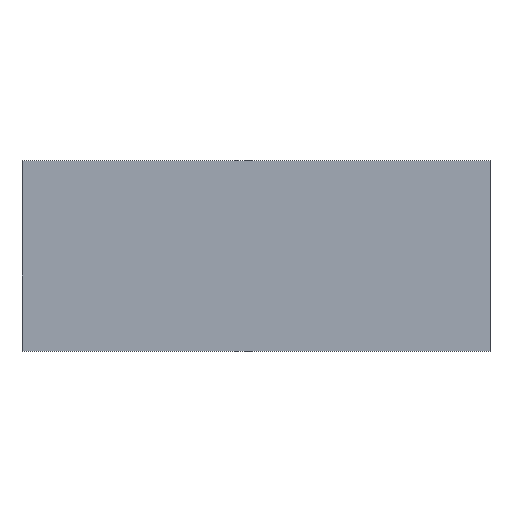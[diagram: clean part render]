
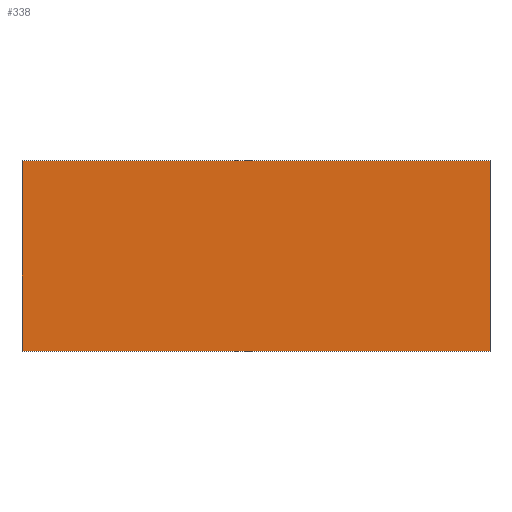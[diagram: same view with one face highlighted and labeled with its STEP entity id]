
A CAD part, top view. The second image highlights one B-rep face of the part: STEP entity #338.
In plain terms, the highlighted planar face has unit normal (0, 0, 1).
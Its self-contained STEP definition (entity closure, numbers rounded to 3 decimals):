
#24 = VERTEX_POINT('',#25);
#25 = CARTESIAN_POINT('',(563.,-12.7,33.));
#32 = PLANE('',#33);
#33 = AXIS2_PLACEMENT_3D('',#34,#35,#36);
#34 = CARTESIAN_POINT('',(563.,-12.7,30.));
#35 = DIRECTION('',(1.,0.,0.));
#36 = DIRECTION('',(0.,0.,1.));
#44 = PLANE('',#45);
#45 = AXIS2_PLACEMENT_3D('',#46,#47,#48);
#46 = CARTESIAN_POINT('',(563.,-12.7,30.));
#47 = DIRECTION('',(0.,1.,0.));
#48 = DIRECTION('',(0.,0.,1.));
#85 = VERTEX_POINT('',#86);
#86 = CARTESIAN_POINT('',(563.,12.7,33.));
#100 = PLANE('',#101);
#101 = AXIS2_PLACEMENT_3D('',#102,#103,#104);
#102 = CARTESIAN_POINT('',(563.,12.7,30.));
#103 = DIRECTION('',(0.,1.,0.));
#104 = DIRECTION('',(0.,0.,1.));
#112 = EDGE_CURVE('',#24,#85,#113,.T.);
#113 = SURFACE_CURVE('',#114,(#118,#125),.PCURVE_S1.);
#114 = LINE('',#115,#116);
#115 = CARTESIAN_POINT('',(563.,-12.7,33.));
#116 = VECTOR('',#117,1.);
#117 = DIRECTION('',(0.,1.,0.));
#118 = PCURVE('',#32,#119);
#119 = DEFINITIONAL_REPRESENTATION('',(#120),#124);
#120 = LINE('',#121,#122);
#121 = CARTESIAN_POINT('',(3.,0.));
#122 = VECTOR('',#123,1.);
#123 = DIRECTION('',(0.,-1.));
#124 = ( GEOMETRIC_REPRESENTATION_CONTEXT(2) 
PARAMETRIC_REPRESENTATION_CONTEXT() REPRESENTATION_CONTEXT('2D SPACE',''
  ) );
#125 = PCURVE('',#126,#131);
#126 = PLANE('',#127);
#127 = AXIS2_PLACEMENT_3D('',#128,#129,#130);
#128 = CARTESIAN_POINT('',(563.,-12.7,33.));
#129 = DIRECTION('',(0.,0.,1.));
#130 = DIRECTION('',(1.,0.,0.));
#131 = DEFINITIONAL_REPRESENTATION('',(#132),#136);
#132 = LINE('',#133,#134);
#133 = CARTESIAN_POINT('',(0.,0.));
#134 = VECTOR('',#135,1.);
#135 = DIRECTION('',(0.,1.));
#136 = ( GEOMETRIC_REPRESENTATION_CONTEXT(2) 
PARAMETRIC_REPRESENTATION_CONTEXT() REPRESENTATION_CONTEXT('2D SPACE',''
  ) );
#144 = VERTEX_POINT('',#145);
#145 = CARTESIAN_POINT('',(625.5,-12.7,33.));
#152 = PLANE('',#153);
#153 = AXIS2_PLACEMENT_3D('',#154,#155,#156);
#154 = CARTESIAN_POINT('',(625.5,-12.7,30.));
#155 = DIRECTION('',(1.,0.,0.));
#156 = DIRECTION('',(0.,0.,1.));
#195 = VERTEX_POINT('',#196);
#196 = CARTESIAN_POINT('',(625.5,12.7,33.));
#217 = EDGE_CURVE('',#144,#195,#218,.T.);
#218 = SURFACE_CURVE('',#219,(#223,#230),.PCURVE_S1.);
#219 = LINE('',#220,#221);
#220 = CARTESIAN_POINT('',(625.5,-12.7,33.));
#221 = VECTOR('',#222,1.);
#222 = DIRECTION('',(0.,1.,0.));
#223 = PCURVE('',#152,#224);
#224 = DEFINITIONAL_REPRESENTATION('',(#225),#229);
#225 = LINE('',#226,#227);
#226 = CARTESIAN_POINT('',(3.,0.));
#227 = VECTOR('',#228,1.);
#228 = DIRECTION('',(0.,-1.));
#229 = ( GEOMETRIC_REPRESENTATION_CONTEXT(2) 
PARAMETRIC_REPRESENTATION_CONTEXT() REPRESENTATION_CONTEXT('2D SPACE',''
  ) );
#230 = PCURVE('',#126,#231);
#231 = DEFINITIONAL_REPRESENTATION('',(#232),#236);
#232 = LINE('',#233,#234);
#233 = CARTESIAN_POINT('',(62.5,0.));
#234 = VECTOR('',#235,1.);
#235 = DIRECTION('',(0.,1.));
#236 = ( GEOMETRIC_REPRESENTATION_CONTEXT(2) 
PARAMETRIC_REPRESENTATION_CONTEXT() REPRESENTATION_CONTEXT('2D SPACE',''
  ) );
#263 = EDGE_CURVE('',#24,#144,#264,.T.);
#264 = SURFACE_CURVE('',#265,(#269,#276),.PCURVE_S1.);
#265 = LINE('',#266,#267);
#266 = CARTESIAN_POINT('',(563.,-12.7,33.));
#267 = VECTOR('',#268,1.);
#268 = DIRECTION('',(1.,0.,0.));
#269 = PCURVE('',#44,#270);
#270 = DEFINITIONAL_REPRESENTATION('',(#271),#275);
#271 = LINE('',#272,#273);
#272 = CARTESIAN_POINT('',(3.,0.));
#273 = VECTOR('',#274,1.);
#274 = DIRECTION('',(0.,1.));
#275 = ( GEOMETRIC_REPRESENTATION_CONTEXT(2) 
PARAMETRIC_REPRESENTATION_CONTEXT() REPRESENTATION_CONTEXT('2D SPACE',''
  ) );
#276 = PCURVE('',#126,#277);
#277 = DEFINITIONAL_REPRESENTATION('',(#278),#282);
#278 = LINE('',#279,#280);
#279 = CARTESIAN_POINT('',(0.,0.));
#280 = VECTOR('',#281,1.);
#281 = DIRECTION('',(1.,0.));
#282 = ( GEOMETRIC_REPRESENTATION_CONTEXT(2) 
PARAMETRIC_REPRESENTATION_CONTEXT() REPRESENTATION_CONTEXT('2D SPACE',''
  ) );
#310 = EDGE_CURVE('',#85,#195,#311,.T.);
#311 = SURFACE_CURVE('',#312,(#316,#323),.PCURVE_S1.);
#312 = LINE('',#313,#314);
#313 = CARTESIAN_POINT('',(563.,12.7,33.));
#314 = VECTOR('',#315,1.);
#315 = DIRECTION('',(1.,0.,0.));
#316 = PCURVE('',#100,#317);
#317 = DEFINITIONAL_REPRESENTATION('',(#318),#322);
#318 = LINE('',#319,#320);
#319 = CARTESIAN_POINT('',(3.,0.));
#320 = VECTOR('',#321,1.);
#321 = DIRECTION('',(0.,1.));
#322 = ( GEOMETRIC_REPRESENTATION_CONTEXT(2) 
PARAMETRIC_REPRESENTATION_CONTEXT() REPRESENTATION_CONTEXT('2D SPACE',''
  ) );
#323 = PCURVE('',#126,#324);
#324 = DEFINITIONAL_REPRESENTATION('',(#325),#329);
#325 = LINE('',#326,#327);
#326 = CARTESIAN_POINT('',(0.,25.4));
#327 = VECTOR('',#328,1.);
#328 = DIRECTION('',(1.,0.));
#329 = ( GEOMETRIC_REPRESENTATION_CONTEXT(2) 
PARAMETRIC_REPRESENTATION_CONTEXT() REPRESENTATION_CONTEXT('2D SPACE',''
  ) );
#338 = ADVANCED_FACE('',(#339),#126,.T.);
#339 = FACE_BOUND('',#340,.T.);
#340 = EDGE_LOOP('',(#341,#342,#343,#344));
#341 = ORIENTED_EDGE('',*,*,#112,.F.);
#342 = ORIENTED_EDGE('',*,*,#263,.T.);
#343 = ORIENTED_EDGE('',*,*,#217,.T.);
#344 = ORIENTED_EDGE('',*,*,#310,.F.);
